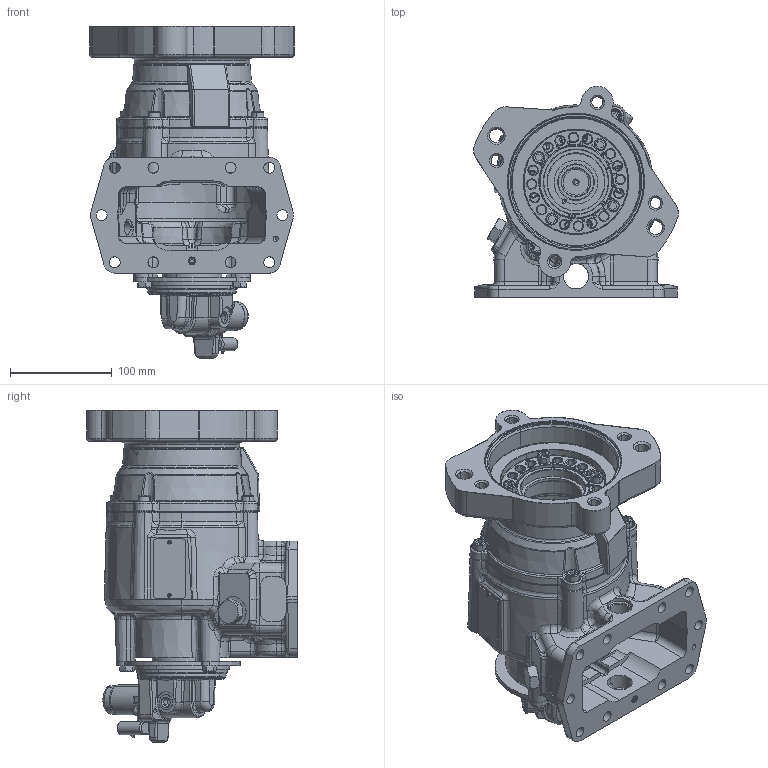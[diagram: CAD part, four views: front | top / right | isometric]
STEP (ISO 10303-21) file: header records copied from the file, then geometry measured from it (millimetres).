
FILE_DESCRIPTION (( 'STEP AP203' ), '1' );
FILE_NAME ('A20-A10XX-HX5CCPX.STEP', '2023-03-29T13:22:16', ( '' ), ( '' ), 'SwSTEP 2.0', 'SolidWorks 2021', '' );
FILE_SCHEMA (( 'CONFIG_CONTROL_DESIGN' ));
Length unit declared in the file: inch
Products named in the file (14): 47T6123TMP_Solenoid; SC-301_25T37702; 35T40860; 19T62950; MD1_5Arrangement; A20-A10XX-HX5CCPX; 12T36701; 14T65449; 25T35999TMP; 47T6123_15T43431_DUST CAP INSTALLED; 19T36588_19T36588; DropInSolenoidRearCoverAssembly; 15T65391DB3; 15T43431_FOR CLAMPS
Assembly tree (21 placements, depth 4):
  A20-A10XX-HX5CCPX
    MD1_5Arrangement
    19T36588_19T36588  x8
    25T35999TMP
    15T65391DB3
    DropInSolenoidRearCoverAssembly
      47T6123TMP_Solenoid
      47T6123_15T43431_DUST CAP INSTALLED
        15T43431_FOR CLAMPS
        19T62950  x2
        12T36701
        SC-301_25T37702
    14T65449
    35T40860
Bounding box: 201.52 x 207.45 x 326.82 mm (x, y, z)
Volume: 1797111.4 mm3; surface area: 487417.5 mm2
Topology: 37 solids, 37 shells, 3568 faces, 8809 edges, 5395 vertices
Faces by surface type: plane 1127, bspline 922, cylinder 776, cone 438, torus 269, sphere 36
Entity records: 160132 total; most frequent: CARTESIAN_POINT 83288, ORIENTED_EDGE 16666, DIRECTION 14308, EDGE_CURVE 8333, AXIS2_PLACEMENT_3D 5530, VERTEX_POINT 5163, EDGE_LOOP 3730, FACE_OUTER_BOUND 3400
